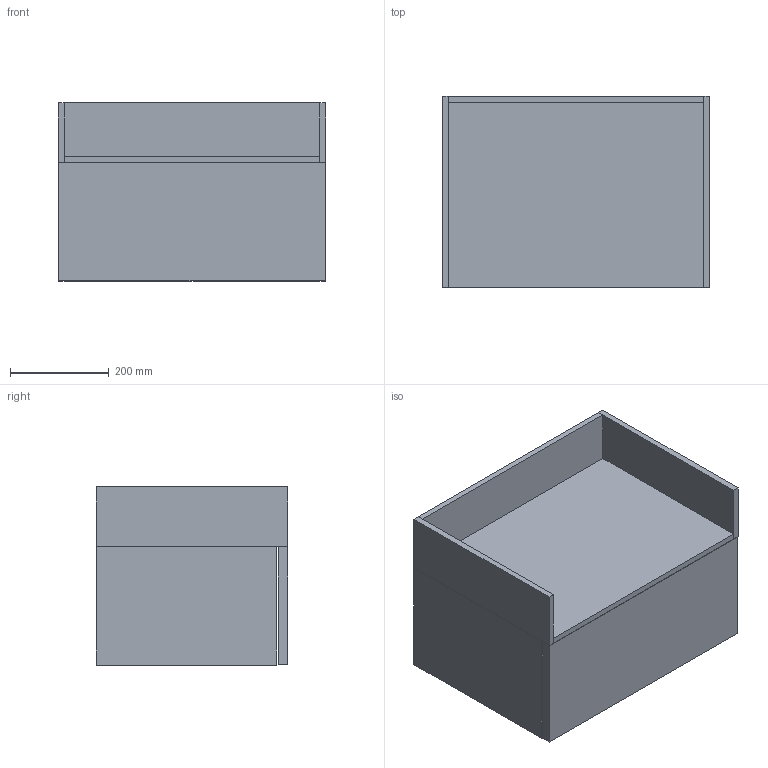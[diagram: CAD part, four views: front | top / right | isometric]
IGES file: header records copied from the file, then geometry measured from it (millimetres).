
Start section: Data from Parasolid IGES Translator 19.0.9, Copyright(c) 2006 Siemens PL M Software. All Rights Reserved.
Global section: file name: noorth-SI-H 36 D 38,8 W 54_8339.igs; native system: By Siemens PLM Incorporated; preprocessor: XPlus GENERIC/IGES 19.0.9; author: Noname; organization: Noname; date: 20200601.092244; units: metre
Bounding box: 540.01 x 386 x 360 mm (x, y, z)
Volume: 15599171.4 mm3; surface area: 2437464.3 mm2
Topology: 10 solids, 10 shells, 60 faces, 120 edges, 80 vertices
Faces by surface type: plane 60
